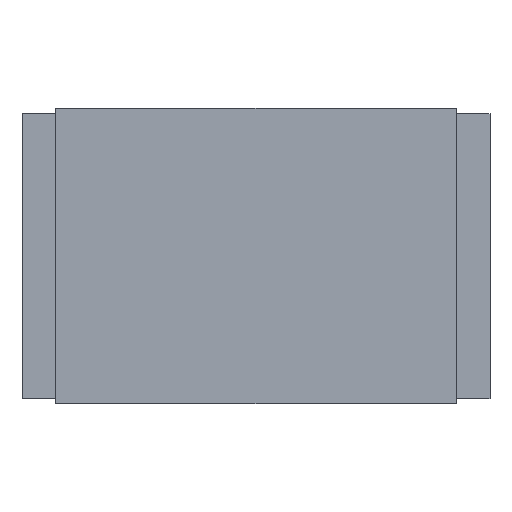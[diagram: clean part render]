
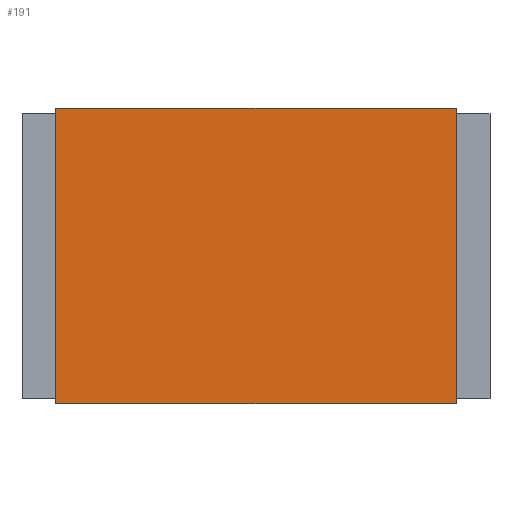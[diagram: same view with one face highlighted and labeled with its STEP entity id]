
A CAD part, top view. The second image highlights one B-rep face of the part: STEP entity #191.
In plain terms, the highlighted planar face has unit normal (0, 0, 1).
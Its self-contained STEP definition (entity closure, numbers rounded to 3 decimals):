
#191=ADVANCED_FACE('',(#197),#192,.T.);
#192=PLANE('',#193);
#193=AXIS2_PLACEMENT_3D('',#194,#195,#196);
#194=CARTESIAN_POINT('',(-0.946,-0.698,0.508));
#195=DIRECTION('',(0.0,0.0,1.0));
#196=DIRECTION('',(0.,1.,0.));
#197=FACE_OUTER_BOUND('',#198,.T.);
#198=EDGE_LOOP('',(#199,#209,#219,#229));
#202=CARTESIAN_POINT('',(0.946,-0.698,0.508));
#201=VERTEX_POINT('',#202);
#204=CARTESIAN_POINT('',(-0.946,-0.698,0.508));
#203=VERTEX_POINT('',#204);
#200=EDGE_CURVE('',#201,#203,#205,.T.);
#205=LINE('',#202,#207);
#207=VECTOR('',#208,1.892);
#208=DIRECTION('',(-1.0,0.0,0.0));
#199=ORIENTED_EDGE('',*,*,#200,.F.);
#212=CARTESIAN_POINT('',(0.946,0.698,0.508));
#211=VERTEX_POINT('',#212);
#210=EDGE_CURVE('',#211,#201,#215,.T.);
#215=LINE('',#212,#217);
#217=VECTOR('',#218,1.397);
#218=DIRECTION('',(0.0,-1.0,0.0));
#209=ORIENTED_EDGE('',*,*,#210,.F.);
#222=CARTESIAN_POINT('',(-0.946,0.698,0.508));
#221=VERTEX_POINT('',#222);
#220=EDGE_CURVE('',#221,#211,#225,.T.);
#225=LINE('',#222,#227);
#227=VECTOR('',#228,1.892);
#228=DIRECTION('',(1.0,0.0,0.0));
#219=ORIENTED_EDGE('',*,*,#220,.F.);
#230=EDGE_CURVE('',#203,#221,#235,.T.);
#235=LINE('',#204,#237);
#237=VECTOR('',#238,1.397);
#238=DIRECTION('',(0.0,1.0,0.0));
#229=ORIENTED_EDGE('',*,*,#230,.F.);
